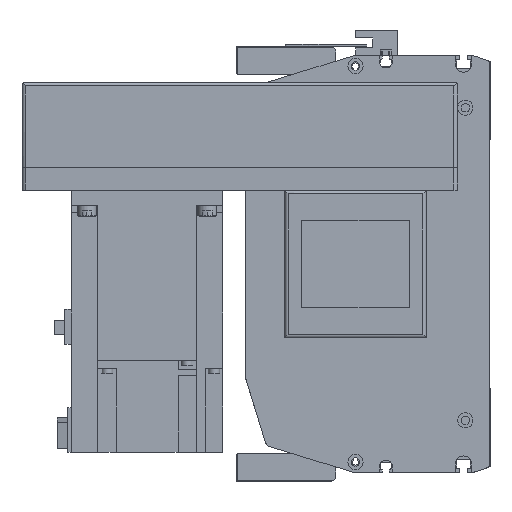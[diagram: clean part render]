
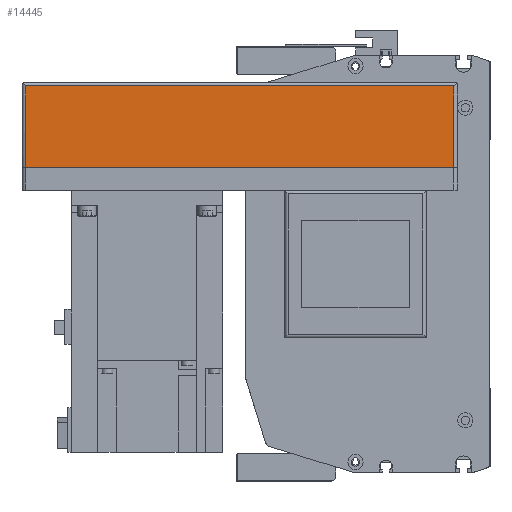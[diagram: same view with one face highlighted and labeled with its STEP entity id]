
A CAD part, left-side view. The second image highlights one B-rep face of the part: STEP entity #14445.
In plain terms, the highlighted planar face has unit normal (-1, 0, 0) as drawn and (0, 1, 0) by its records, which use the part's own axes.
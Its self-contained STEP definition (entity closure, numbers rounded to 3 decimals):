
#2460=ORIENTED_EDGE('',*,*,#5890,.F.);
#2461=ORIENTED_EDGE('',*,*,#5830,.T.);
#2462=ORIENTED_EDGE('',*,*,#5891,.F.);
#2463=ORIENTED_EDGE('',*,*,#5825,.F.);
#5825=EDGE_CURVE('',#7686,#7687,#9180,.T.);
#5830=EDGE_CURVE('',#7692,#7691,#9182,.T.);
#5890=EDGE_CURVE('',#7692,#7686,#9225,.T.);
#5891=EDGE_CURVE('',#7687,#7691,#9226,.T.);
#7686=VERTEX_POINT('',#22470);
#7687=VERTEX_POINT('',#22472);
#7691=VERTEX_POINT('',#22481);
#7692=VERTEX_POINT('',#22483);
#9180=LINE('',#22471,#10525);
#9182=LINE('',#22482,#10527);
#9225=LINE('',#22605,#10570);
#9226=LINE('',#22606,#10571);
#10525=VECTOR('',#17955,1000.);
#10527=VECTOR('',#17965,1000.);
#10570=VECTOR('',#18086,1000.);
#10571=VECTOR('',#18087,1000.);
#11724=EDGE_LOOP('',(#2460,#2461,#2462,#2463));
#12853=FACE_BOUND('',#11724,.T.);
#13820=PLANE('',#15510);
#14445=ADVANCED_FACE('',(#12853),#13820,.T.);
#15510=AXIS2_PLACEMENT_3D('',#22604,#18084,#18085);
#17955=DIRECTION('',(0.,0.,1.));
#17965=DIRECTION('',(0.,0.,1.));
#18084=DIRECTION('',(0.,1.,0.));
#18085=DIRECTION('',(0.,0.,1.));
#18086=DIRECTION('',(1.,0.,0.));
#18087=DIRECTION('',(-1.,0.,0.));
#22470=CARTESIAN_POINT('',(-2.,54.,-55.));
#22471=CARTESIAN_POINT('',(-2.,54.,-57.));
#22472=CARTESIAN_POINT('',(-2.,54.,-12.));
#22481=CARTESIAN_POINT('',(-228.,54.,-12.));
#22482=CARTESIAN_POINT('',(-228.,54.,-57.));
#22483=CARTESIAN_POINT('',(-228.,54.,-55.));
#22604=CARTESIAN_POINT('',(-2.,54.,-57.));
#22605=CARTESIAN_POINT('',(-230.,54.,-55.));
#22606=CARTESIAN_POINT('',(-2.,54.,-12.));
